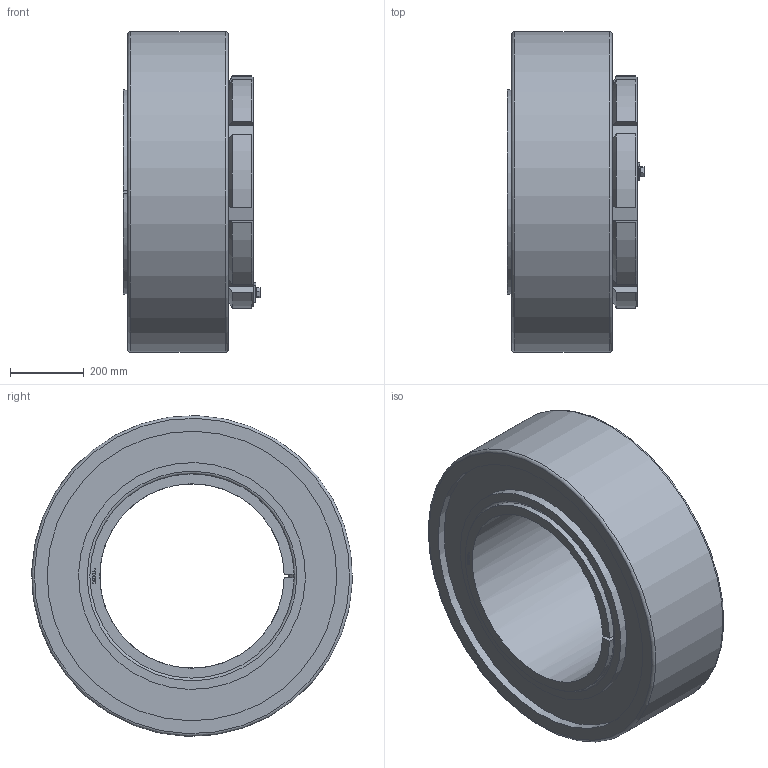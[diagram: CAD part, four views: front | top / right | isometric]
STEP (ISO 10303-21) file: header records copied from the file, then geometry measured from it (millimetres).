
FILE_DESCRIPTION( ( 'STEP AP203' ), ' ' );
FILE_NAME( 'p:/temp/worker_321/3412_4532/app_90_02016102820244397706768192d056f_000000_00_00_000000/format_0/BGL H 31_530 TL+231_530K.stp', '2016-10-28T18:24:46', ( '' ), ( '' ), ' ', 'PARTsolutions', ' ' );
FILE_SCHEMA( ( 'CONFIG_CONTROL_DESIGN' ) );
Length unit declared in the file: millimetre
Products named in the file (6): BGL H 31/530 TL+231/530K; _BGLH31/530TLB; _BGL HM 30/530; _BGLH31/530TL+H-231/530K; _BGL MS 30/530-600part; _BGL MS 30/530-600HHS
Assembly tree (5 placements, depth 2):
  BGL H 31/530 TL+231/530K
    _BGLH31/530TLB
    _BGL HM 30/530
    _BGLH31/530TL+H-231/530K
    _BGL MS 30/530-600part
    _BGL MS 30/530-600HHS
Bounding box: 371.98 x 869.7 x 869.7 mm (x, y, z)
Volume: 107394195.1 mm3; surface area: 3770121.6 mm2
Topology: 5 solids, 5 shells, 351 faces, 899 edges, 589 vertices
Faces by surface type: plane 230, cylinder 79, cone 38, torus 4
Full cylindrical faces by diameter (mm): 16 x9, 18 x1, 24.4 x1, 524 x1, 615 x2, 785 x2, 870 x1
Entity records: 10778 total; most frequent: CARTESIAN_POINT 2120, DIRECTION 1729, ORIENTED_EDGE 1726, EDGE_CURVE 863, VERTEX_POINT 586, AXIS2_PLACEMENT_3D 577, LINE 575, VECTOR 575
